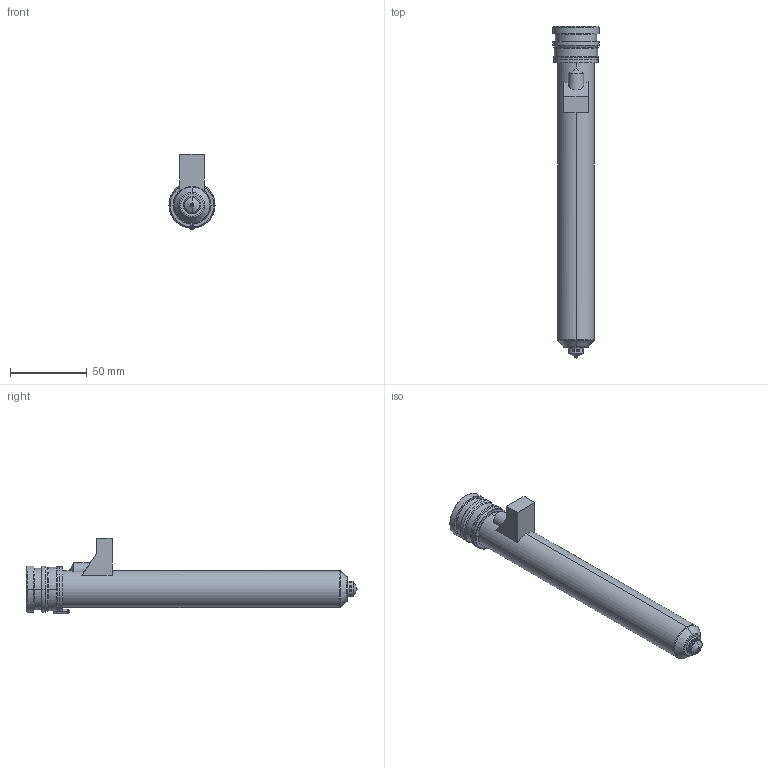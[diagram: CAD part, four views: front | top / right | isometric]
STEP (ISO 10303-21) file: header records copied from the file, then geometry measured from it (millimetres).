
FILE_DESCRIPTION((''),'2;1');
FILE_NAME('MPN-10-29-TS10-196-M','2026-02-05T12:50:20',('UPTIO'),('Thermoplay S.p.A.'),'CREO PARAMETRIC BY PTC INC, 2023494','CREO PARAMETRIC BY PTC INC, 2023494','');
FILE_SCHEMA(('CONFIG_CONTROL_DESIGN','SHAPE_APPEARANCE_LAYERS_GROUPS'));
Length unit declared in the file: millimetre
Products named in the file (1): MPN-10-29-TS10-196-M
Bounding box: 30 x 216 x 49 mm (x, y, z)
Volume: 67076.4 mm3; surface area: 68821.5 mm2
Topology: 3 solids, 5 shells, 542 faces, 1383 edges, 843 vertices
Faces by surface type: cylinder 177, plane 148, bspline 72, torus 67, cone 64, sphere 10, extrusion 4
Entity records: 29224 total; most frequent: CARTESIAN_POINT 13448, ORIENTED_EDGE 2748, DIRECTION 2578, EDGE_CURVE 1374, AXIS2_PLACEMENT_3D 1023, VERTEX_POINT 843, EDGE_LOOP 571, CIRCLE 556
